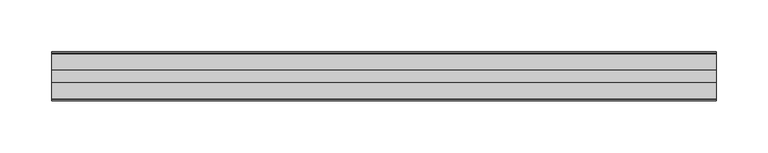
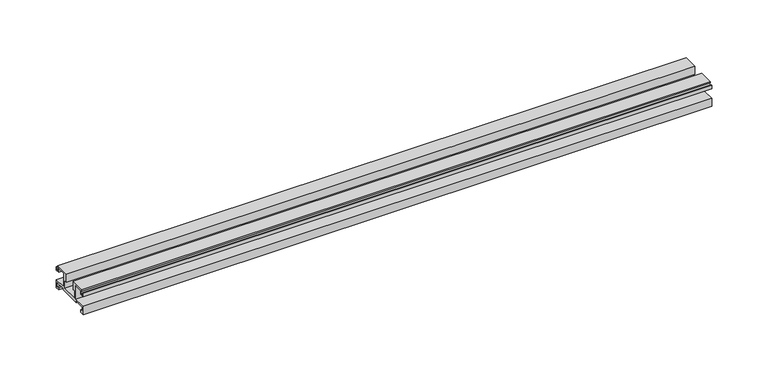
"""IFC4 building model written with IfcOpenShell, lengths in millimetres: proxy geometry, Weiku - Montante - Acoplamento vidro : Weiku - Montante - Acoplamento vidro."""

from ifc_helpers import new_model, si_unit, frame, origin, place, context, project, spatial, polyline, outline, extrude, source, transform, mapped, element, save


def generic_models_4a065597(model_context):
    return source(origin(), model_context, "Body", "SweptSolid", [
        extrude(outline(polyline([(35.405, 5.1494), (12.495, 5.1494), (12.495, 6.8004), (2.159, 6.8004), (2.159, 2.6094), (4.0216, 2.6094), (4.0216, 0.0), (-0.0014508, 0.0), (-0.0014508, 8.79), (12.954, 8.79), (12.954, 23.3104), (4.3603, 23.3104), (4.3603, 19.204), (0.0, 19.204), (0.0, 22.8024), (0.9736, 22.8024), (0.9736, 20.3894), (3.175, 20.3894), (3.175, 23.9454), (2.3735496, 23.9454), (2.3735496, 25.3), (17.4836, 25.3), (17.4836, 16.283), (15.4516, 16.283), (15.4516, 8.8), (32.4484, 8.8), (32.4484, 16.283), (30.4164, 16.283), (30.4164, 25.3), (45.5264504, 25.3), (45.5264504, 23.9454), (44.725, 23.9454), (44.725, 20.3894), (46.9264, 20.3894), (46.9264, 22.8024), (47.9, 22.8024), (47.9, 19.204), (43.5397, 19.204), (43.5397, 23.3104), (34.946, 23.3104), (34.946, 8.79), (47.9014508, 8.79), (47.9014508, 0.0), (43.8784, 0.0), (43.8784, 2.6094), (45.741, 2.6094), (45.741, 6.8004), (35.405, 6.8004), (35.405, 5.1494)])), frame((-322.35, 0.0, 0.0), z_axis=(1.0, 0.0, 0.0), x_axis=(0.0, 1.0, 0.0)), (0.0, 0.0, 1.0), 644.7),
    ])


if __name__ == "__main__":
    model = new_model("IFC4")
    model_context = context("Model", 3, world=origin())
    ifc_project = project(units=[si_unit("LENGTHUNIT", "METRE", prefix="MILLI")], contexts=[model_context])
    site = spatial("IfcSite", under=ifc_project)
    building = spatial("IfcBuilding", under=site)
    placement = place(None, origin())
    generic_models_shape = generic_models_4a065597(model_context)
    element("IfcBuildingElementProxy", 1, Name="Weiku - Montante - Acoplamento vidro : Weiku - Montante - Acoplamento vidro", ObjectType="Weiku - Montante - Acoplamento vidro : Weiku - Montante - Acoplamento vidro", at=placement, inside=building, context=model_context, shape_type="MappedRepresentation", body=[
        mapped(generic_models_shape, transform((0.0, 0.0, 0.0), x_axis=(1.0, 0.0, 0.0), y_axis=(0.0, 1.0, 0.0), z_axis=(0.0, 0.0, 1.0))),
    ])
    save(model, "model.ifc")
